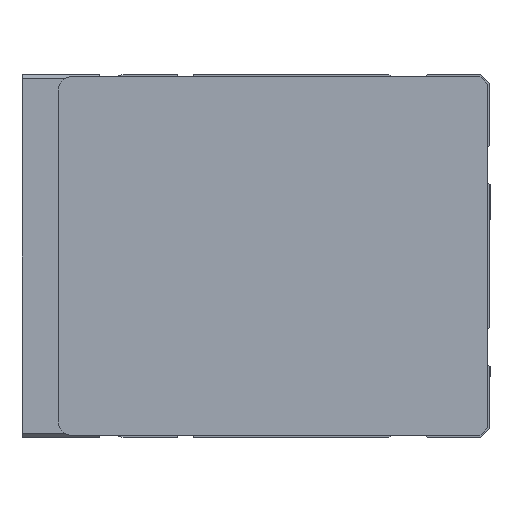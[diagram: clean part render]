
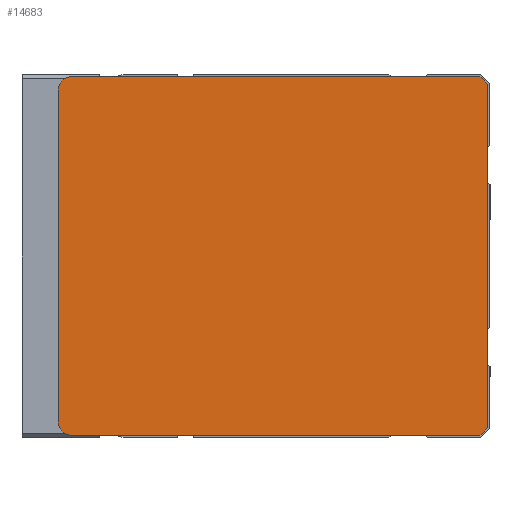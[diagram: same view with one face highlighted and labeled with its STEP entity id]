
A CAD part, left-side view. The second image highlights one B-rep face of the part: STEP entity #14683.
In plain terms, the highlighted planar face has unit normal (-1, 0, 0) as drawn and (0, 0, -1) by its records, which use the part's own axes.
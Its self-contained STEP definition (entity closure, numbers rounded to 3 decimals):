
#1281=CIRCLE('',#15610,3.);
#1282=CIRCLE('',#15613,3.);
#1682=FACE_OUTER_BOUND('',#2546,.T.);
#2546=EDGE_LOOP('',(#9994,#9995,#9996,#9997,#9998,#9999,#10000,#10001));
#3658=LINE('',#20879,#4956);
#3661=LINE('',#20884,#4959);
#3663=LINE('',#20888,#4961);
#3665=LINE('',#20892,#4963);
#3667=LINE('',#20896,#4965);
#3670=LINE('',#20904,#4968);
#4956=VECTOR('',#17001,89.793);
#4959=VECTOR('',#17006,2.414);
#4961=VECTOR('',#17010,75.586);
#4963=VECTOR('',#17014,2.414);
#4965=VECTOR('',#17018,89.793);
#4968=VECTOR('',#17027,73.);
#6242=VERTEX_POINT('',#20877);
#6243=VERTEX_POINT('',#20878);
#6244=VERTEX_POINT('',#20883);
#6245=VERTEX_POINT('',#20887);
#6246=VERTEX_POINT('',#20891);
#6247=VERTEX_POINT('',#20895);
#6248=VERTEX_POINT('',#20899);
#6249=VERTEX_POINT('',#20903);
#7729=EDGE_CURVE('',#6242,#6243,#3658,.T.);
#7732=EDGE_CURVE('',#6243,#6244,#3661,.T.);
#7734=EDGE_CURVE('',#6244,#6245,#3663,.T.);
#7736=EDGE_CURVE('',#6245,#6246,#3665,.T.);
#7738=EDGE_CURVE('',#6246,#6247,#3667,.T.);
#7740=EDGE_CURVE('',#6247,#6248,#1281,.T.);
#7742=EDGE_CURVE('',#6248,#6249,#3670,.T.);
#7744=EDGE_CURVE('',#6249,#6242,#1282,.T.);
#9994=ORIENTED_EDGE('',*,*,#7738,.F.);
#9995=ORIENTED_EDGE('',*,*,#7736,.F.);
#9996=ORIENTED_EDGE('',*,*,#7734,.F.);
#9997=ORIENTED_EDGE('',*,*,#7732,.F.);
#9998=ORIENTED_EDGE('',*,*,#7729,.F.);
#9999=ORIENTED_EDGE('',*,*,#7744,.F.);
#10000=ORIENTED_EDGE('',*,*,#7742,.F.);
#10001=ORIENTED_EDGE('',*,*,#7740,.F.);
#14172=PLANE('',#15623);
#14683=ADVANCED_FACE('',(#1682),#14172,.T.);
#15610=AXIS2_PLACEMENT_3D('',#20900,#17022,#17023);
#15613=AXIS2_PLACEMENT_3D('',#20907,#17031,#17032);
#15623=AXIS2_PLACEMENT_3D('',#20933,#17061,#17062);
#17001=DIRECTION('',(0.,-1.,0.));
#17006=DIRECTION('',(0.707,-0.707,0.));
#17010=DIRECTION('',(1.,0.,0.));
#17014=DIRECTION('',(0.707,0.707,0.));
#17018=DIRECTION('',(0.,1.,0.));
#17022=DIRECTION('center_axis',(0.,0.,
1.));
#17023=DIRECTION('ref_axis',(1.,0.,0.));
#17027=DIRECTION('',(-1.,0.,0.));
#17031=DIRECTION('center_axis',(0.,0.,
1.));
#17032=DIRECTION('ref_axis',(0.,1.,0.));
#17061=DIRECTION('center_axis',(0.,0.,
-1.));
#17062=DIRECTION('ref_axis',(-1.,0.,0.));
#20877=CARTESIAN_POINT('',(-78.5,92.,-488.));
#20878=CARTESIAN_POINT('',(-78.5,2.207,-488.));
#20879=CARTESIAN_POINT('',(-78.5,92.,-488.));
#20883=CARTESIAN_POINT('',(-76.793,0.5,-488.));
#20884=CARTESIAN_POINT('',(-78.5,2.207,-488.));
#20887=CARTESIAN_POINT('',(-1.207,0.5,-488.));
#20888=CARTESIAN_POINT('',(-76.793,0.5,-488.));
#20891=CARTESIAN_POINT('',(0.5,2.207,-488.));
#20892=CARTESIAN_POINT('',(-1.207,0.5,-488.));
#20895=CARTESIAN_POINT('',(0.5,92.,-488.));
#20896=CARTESIAN_POINT('',(0.5,2.207,-488.));
#20899=CARTESIAN_POINT('',(-2.5,95.,-488.));
#20900=CARTESIAN_POINT('Origin',(-2.5,92.,-488.));
#20903=CARTESIAN_POINT('',(-75.5,95.,-488.));
#20904=CARTESIAN_POINT('',(-2.5,95.,-488.));
#20907=CARTESIAN_POINT('Origin',(-75.5,92.,-488.));
#20933=CARTESIAN_POINT('Origin',(-39.,44.214,-488.));
